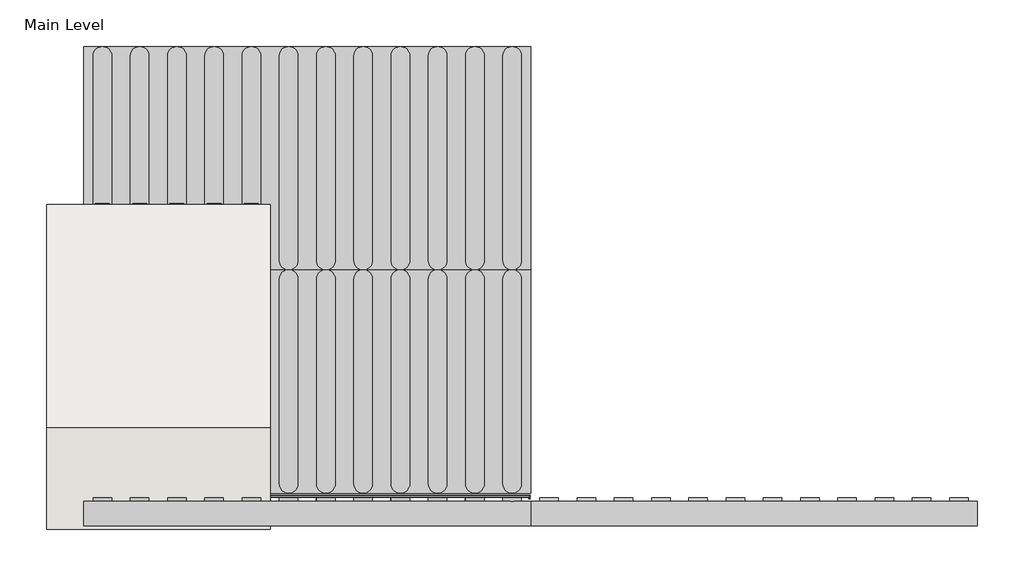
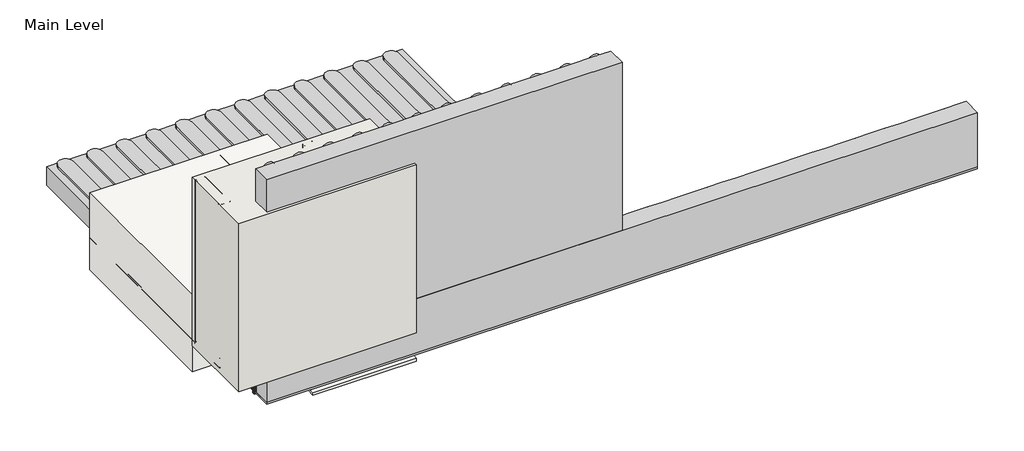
# One storey, incomplete: 21 proxies, 2 coverings, 2 walls.
"""IFC4 building model written with IfcOpenShell, lengths in millimetres."""

from ifc_helpers import new_model, si_unit, frame, origin, origin_with_axes, place, context, project, spatial, polyline, outline, extrude, transform, mapped, element, save
from components import generic_models_cd07b2ce, generic_models_4ec5f286, generic_models_2e656d56, generic_models_47e8b319, generic_models_65503a8f, proxy_50213ae0, proxy_cc65e3d2, proxy_63d6b373, soffit_box_soffit_box_70e22adb, top_adhesive_top_adhesive_8120ce26, wood_blocking_c9818c35, wood_blocking_63bdfc83

model = new_model("IFC4")

# Units and contexts
model_context = context("Model", 3, world=origin())
ifc_project = project(units=[si_unit("LENGTHUNIT", "METRE", prefix="MILLI")], contexts=[model_context])

# Site, building, storey
site = spatial("IfcSite", under=ifc_project)
building = spatial("IfcBuilding", under=site)
storey = spatial("IfcBuildingStorey", under=building, Name="Main Level", Elevation=0.0)

# Proxies
placement = place(None, origin())
generic_models_shape = generic_models_cd07b2ce(model_context)
element("IfcBuildingElementProxy", 1, Name="CRAi Generic Model Metal Stud Array : CRAi Generic Model Metal Stud Array", ObjectType="CRAi Generic Model Metal Stud Array : CRAi Generic Model Metal Stud Array", at=placement, inside=storey, context=model_context, shape_type="MappedRepresentation", body=[
    mapped(generic_models_shape, transform((26692.3726773, 726.0566297, 22.225), x_axis=(-1.0, 0.0, 0.0), y_axis=(0.0, -1.0, 0.0), z_axis=(0.0, 0.0, 1.0))),
])
generic_models_2_shape = generic_models_4ec5f286(model_context)
element("IfcBuildingElementProxy", 2, Name="Durabond Generic Model Insulation Adhesive Flat : Durabond Generic Model Insulation Adhesive Flat", ObjectType="Durabond Generic Model Insulation Adhesive Flat : Durabond Generic Model Insulation Adhesive Flat", at=placement, inside=storey, context=model_context, shape_type="MappedRepresentation", body=[
    mapped(generic_models_2_shape, transform((26641.5726773, 627.6316297, -9.525), x_axis=(1.0, 0.0, 0.0), y_axis=(0.0, 1.0, 0.0), z_axis=(0.0, 0.0, 1.0))),
])
element("IfcBuildingElementProxy", 3, Name="Durabond Generic Model Insulation Adhesive Flat : Durabond Generic Model Insulation Adhesive Flat", ObjectType="Durabond Generic Model Insulation Adhesive Flat : Durabond Generic Model Insulation Adhesive Flat", at=placement, inside=storey, context=model_context, shape_type="MappedRepresentation", body=[
    mapped(generic_models_2_shape, transform((26743.1726773, 627.6316297, -9.525), x_axis=(1.0, 0.0, 0.0), y_axis=(0.0, 1.0, 0.0), z_axis=(0.0, 0.0, 1.0))),
])
element("IfcBuildingElementProxy", 4, Name="Durabond Generic Model Insulation Adhesive Flat : Durabond Generic Model Insulation Adhesive Flat", ObjectType="Durabond Generic Model Insulation Adhesive Flat : Durabond Generic Model Insulation Adhesive Flat", at=placement, inside=storey, context=model_context, shape_type="MappedRepresentation", body=[
    mapped(generic_models_2_shape, transform((26844.7726773, 627.6316297, -9.525), x_axis=(1.0, 0.0, 0.0), y_axis=(0.0, 1.0, 0.0), z_axis=(0.0, 0.0, 1.0))),
])
element("IfcBuildingElementProxy", 5, Name="Durabond Generic Model Insulation Adhesive Flat : Durabond Generic Model Insulation Adhesive Flat", ObjectType="Durabond Generic Model Insulation Adhesive Flat : Durabond Generic Model Insulation Adhesive Flat", at=placement, inside=storey, context=model_context, shape_type="MappedRepresentation", body=[
    mapped(generic_models_2_shape, transform((26946.3726773, 627.6316297, -9.525), x_axis=(1.0, 0.0, 0.0), y_axis=(0.0, 1.0, 0.0), z_axis=(0.0, 0.0, 1.0))),
])
element("IfcBuildingElementProxy", 6, Name="Durabond Generic Model Insulation Adhesive Flat : Durabond Generic Model Insulation Adhesive Flat", ObjectType="Durabond Generic Model Insulation Adhesive Flat : Durabond Generic Model Insulation Adhesive Flat", at=placement, inside=storey, context=model_context, shape_type="MappedRepresentation", body=[
    mapped(generic_models_2_shape, transform((27047.9726773, 627.6316297, -9.525), x_axis=(1.0, 0.0, 0.0), y_axis=(0.0, 1.0, 0.0), z_axis=(0.0, 0.0, 1.0))),
])
generic_models_3_shape = generic_models_2e656d56(model_context)
generic_models_4_shape = generic_models_47e8b319(model_context)
element("IfcBuildingElementProxy", 7, Name="Durabond Generic Soffit Drainage Vent : Durabond Generic Soffit Drainage Vent", ObjectType="Durabond Generic Soffit Drainage Vent : Durabond Generic Soffit Drainage Vent", at=placement, inside=storey, context=model_context, shape_type="MappedRepresentation", body=[
    mapped(generic_models_3_shape, transform((27199.3497774, 626.0441297, -93.6625), x_axis=(1.0, 0.0, 0.0), y_axis=(0.0, 1.0, 0.0), z_axis=(0.0, 0.0, 1.0))),
    mapped(generic_models_4_shape, transform((27199.3497774, 626.0441297, -93.6625), x_axis=(1.0, 0.0, 0.0), y_axis=(0.0, 1.0, 0.0), z_axis=(0.0, 0.0, 1.0))),
])
generic_models_5_shape = generic_models_65503a8f(model_context)
element("IfcBuildingElementProxy", 8, Name="Durabond Generic Model Insulation Adhesive Flat : Durabond Generic Model Insulation Adhesive Flat", ObjectType="Durabond Generic Model Insulation Adhesive Flat : Durabond Generic Model Insulation Adhesive Flat", at=placement, inside=storey, context=model_context, shape_type="MappedRepresentation", body=[
    mapped(generic_models_5_shape, transform((26641.5726773, 637.1566297, -6.35), x_axis=(1.0, 0.0, 0.0), y_axis=(0.0, 0.0, -1.0), z_axis=(0.0, 1.0, 0.0))),
])
element("IfcBuildingElementProxy", 9, Name="Durabond Generic Model Insulation Adhesive Flat : Durabond Generic Model Insulation Adhesive Flat", ObjectType="Durabond Generic Model Insulation Adhesive Flat : Durabond Generic Model Insulation Adhesive Flat", at=placement, inside=storey, context=model_context, shape_type="MappedRepresentation", body=[
    mapped(generic_models_5_shape, transform((26743.1726773, 637.1566297, -6.35), x_axis=(1.0, 0.0, 0.0), y_axis=(0.0, 0.0, -1.0), z_axis=(0.0, 1.0, 0.0))),
])
element("IfcBuildingElementProxy", 10, Name="Durabond Generic Model Insulation Adhesive Flat : Durabond Generic Model Insulation Adhesive Flat", ObjectType="Durabond Generic Model Insulation Adhesive Flat : Durabond Generic Model Insulation Adhesive Flat", at=placement, inside=storey, context=model_context, shape_type="MappedRepresentation", body=[
    mapped(generic_models_5_shape, transform((26844.7726773, 637.1566297, -6.35), x_axis=(1.0, 0.0, 0.0), y_axis=(0.0, 0.0, -1.0), z_axis=(0.0, 1.0, 0.0))),
])
element("IfcBuildingElementProxy", 11, Name="Durabond Generic Model Insulation Adhesive Flat : Durabond Generic Model Insulation Adhesive Flat", ObjectType="Durabond Generic Model Insulation Adhesive Flat : Durabond Generic Model Insulation Adhesive Flat", at=placement, inside=storey, context=model_context, shape_type="MappedRepresentation", body=[
    mapped(generic_models_5_shape, transform((26946.3726773, 637.1566297, -6.35), x_axis=(1.0, 0.0, 0.0), y_axis=(0.0, 0.0, -1.0), z_axis=(0.0, 1.0, 0.0))),
])
element("IfcBuildingElementProxy", 12, Name="Durabond Generic Model Insulation Adhesive Flat : Durabond Generic Model Insulation Adhesive Flat", ObjectType="Durabond Generic Model Insulation Adhesive Flat : Durabond Generic Model Insulation Adhesive Flat", at=placement, inside=storey, context=model_context, shape_type="MappedRepresentation", body=[
    mapped(generic_models_5_shape, transform((27047.9726773, 637.1566297, -6.35), x_axis=(1.0, 0.0, 0.0), y_axis=(0.0, 0.0, -1.0), z_axis=(0.0, 1.0, 0.0))),
])
proxy_shape = proxy_50213ae0(model_context)
element("IfcBuildingElementProxy", 13, Name="Durabond Generic Model Quantum Select 5-0 Insulation Board : 3\"", ObjectType="Durabond Generic Model Quantum Select 5-0 Insulation Board : 3\"", at=placement, inside=storey, context=model_context, shape_type="MappedRepresentation", body=[
    mapped(proxy_shape, transform((27200.3726773, 624.4566297, 422.275), x_axis=(1.0, 0.0, 0.0), y_axis=(0.0, 0.0, 1.0), z_axis=(0.0, -1.0, 0.0))),
])
element("IfcBuildingElementProxy", 14, Name="Durabond Generic Model Quantum Select 5-0 Insulation Board : 3\"", ObjectType="Durabond Generic Model Quantum Select 5-0 Insulation Board : 3\"", at=placement, inside=storey, context=model_context, shape_type="MappedRepresentation", body=[
    mapped(proxy_shape, transform((27200.3726773, 941.9566297, -9.525), x_axis=(-1.0, 0.0, 0.0), y_axis=(0.0, 1.0, 0.0), z_axis=(0.0, 0.0, -1.0))),
])
element("IfcBuildingElementProxy", 15, Name="Durabond Generic Model Quantum Select 5-0 Insulation Board : 3\"", ObjectType="Durabond Generic Model Quantum Select 5-0 Insulation Board : 3\"", at=placement, inside=storey, context=model_context, shape_type="MappedRepresentation", body=[
    mapped(proxy_shape, transform((27200.3726773, 1551.5566297, -9.5089222), x_axis=(-1.0, 0.0, 0.0), y_axis=(0.0, 1.0, 0.0), z_axis=(0.0, 0.0, -1.0))),
])
proxy_2_shape = proxy_cc65e3d2(model_context)
element("IfcBuildingElementProxy", 16, Name="Durabond Generic Model Quantum Select 5-0 Vent Board : 3\"", ObjectType="Durabond Generic Model Quantum Select 5-0 Vent Board : 3\"", at=placement, inside=storey, context=model_context, shape_type="MappedRepresentation", body=[
    mapped(proxy_2_shape, transform((27809.1789273, 624.4566297, 15.875), x_axis=(1.0, 0.0, 0.0), y_axis=(0.0, 0.0, 1.0), z_axis=(0.0, -1.0, 0.0))),
])
proxy_3_shape = proxy_63d6b373(model_context)
element("IfcBuildingElementProxy", 17, Name="Durabond Generic Model Corner 90 Membrane : 4\" Barrier Seam Tape", ObjectType="Durabond Generic Model Corner 90 Membrane : 4\" Barrier Seam Tape", at=placement, inside=storey, context=model_context, shape_type="MappedRepresentation", body=[
    mapped(proxy_3_shape, transform((26514.5726773, 633.9816297, 0.0), x_axis=(0.0, 0.0, -1.0), y_axis=(0.0, 1.0, 0.0), z_axis=(1.0, 0.0, 0.0))),
])
soffit_box_soffit_box_shape = soffit_box_soffit_box_70e22adb(model_context)
element("IfcBuildingElementProxy", 18, Name="Soffit Box : Soffit Box", ObjectType="Soffit Box : Soffit Box", at=placement, inside=storey, context=model_context, shape_type="MappedRepresentation", body=[
    mapped(soffit_box_soffit_box_shape, transform((0.0, 0.0, 0.0), x_axis=(1.0, 0.0, 0.0), y_axis=(0.0, 1.0, 0.0), z_axis=(0.0, 0.0, 1.0))),
])
top_adhesive_top_adhesive_shape = top_adhesive_top_adhesive_8120ce26(model_context)
element("IfcBuildingElementProxy", 19, Name="Top Adhesive : Top Adhesive", ObjectType="Top Adhesive : Top Adhesive", at=placement, inside=storey, context=model_context, shape_type="MappedRepresentation", body=[
    mapped(top_adhesive_top_adhesive_shape, transform((0.0, 0.0, 0.0), x_axis=(1.0, 0.0, 0.0), y_axis=(0.0, 1.0, 0.0), z_axis=(0.0, 0.0, 1.0))),
])
wood_blocking_shape = wood_blocking_c9818c35(model_context)
element("IfcBuildingElementProxy", 20, Name="CRAi Generic Model Line Based Metal Framing Track : Wood Blocking", ObjectType="CRAi Generic Model Line Based Metal Framing Track : Wood Blocking", at=placement, inside=storey, context=model_context, shape_type="MappedRepresentation", body=[
    mapped(wood_blocking_shape, transform((26489.1726773, 649.8566297, 15.875), x_axis=(1.0, 0.0, 0.0), y_axis=(0.0, 1.0, 0.0), z_axis=(0.0, 0.0, 1.0))),
])
wood_blocking_2_shape = wood_blocking_63bdfc83(model_context)
element("IfcBuildingElementProxy", 21, Name="CRAi Generic Model Line Based Metal Framing Track : Wood Blocking", ObjectType="CRAi Generic Model Line Based Metal Framing Track : Wood Blocking", at=placement, inside=storey, context=model_context, shape_type="MappedRepresentation", body=[
    mapped(wood_blocking_2_shape, transform((26491.8622441, 802.2566297, 168.275), x_axis=(1.0, 0.0, 0.0), y_axis=(0.0, 0.0, -1.0), z_axis=(0.0, 1.0, 0.0))),
])

# Coverings
element("IfcCovering", 22, ObjectType="Durabond Detail Ceiling Metal Stud'", at=placement, inside=storey, context=model_context, shape_type="SweptSolid", body=[
    extrude(outline(polyline([(27098.7726773, 814.9566297), (26489.1726773, 814.9566297), (26489.1726773, 1424.5566297), (27098.7726773, 1424.5566297), (27098.7726773, 814.9566297)])), frame((0.0, 0.0, -95.25), z_axis=(0.0, 0.0, 1.0), x_axis=(1.0, 0.0, 0.0)), (0.0, 0.0, 1.0), 279.4),
])
element("IfcCovering", 23, ObjectType="Durabond Stucco Lamina", at=placement, inside=storey, context=model_context, shape_type="SweptSolid", body=[
    extrude(outline(polyline([(538.7316297, -92.3552522), (614.9316297, -85.688616), (614.9316297, -95.25), (538.7316297, -101.9166362), (538.7316297, -92.3552522)])), frame((26743.1726773, 0.0, 0.0), z_axis=(1.0, 0.0, 0.0), x_axis=(0.0, 1.0, 0.0)), (0.0, 0.0, 1.0), 355.6),
])

# Walls
element("IfcWall", 24, ObjectType="189mm (7.5”) EIFS Field Applied on Mtl. Stud Layer - 50mm Grooved Insulation Board Metal Stud Wall", at=placement, inside=storey, context=model_context, shape_type="SweptSolid", body=[
    extrude(outline(polyline([(27098.7726773, 538.7316297), (26489.1726773, 538.7316297), (26489.1726773, 814.9566297), (27098.7726773, 814.9566297), (27098.7726773, 538.7316297)])), origin_with_axes(), (0.0, 0.0, 1.0), 609.6),
])
element("IfcWall", 25, ObjectType="Durabond Stucco System Lamina Back of Soffit", at=placement, inside=storey, context=model_context, shape_type="SweptSolid", body=[
    extrude(outline(polyline([(27098.7726773, 614.9316297), (26743.1726773, 614.9316297), (26743.1726773, 621.2816297), (27098.7726773, 621.2816297), (27098.7726773, 614.9316297)])), frame((0.0, 0.0, -98.425), z_axis=(0.0, 0.0, 1.0), x_axis=(1.0, 0.0, 0.0)), (0.0, 0.0, 1.0), 47.625),
])

save(model, "model.ifc")
